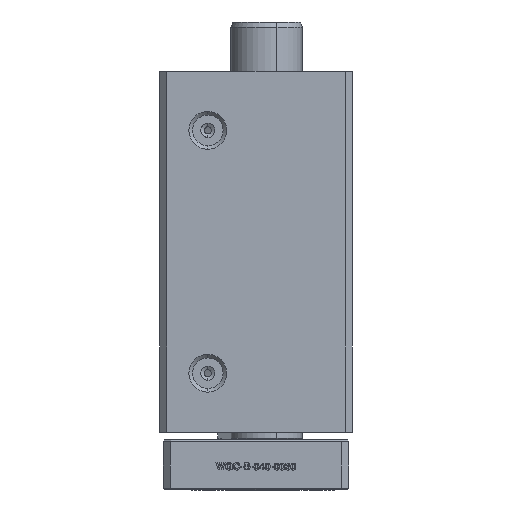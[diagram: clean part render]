
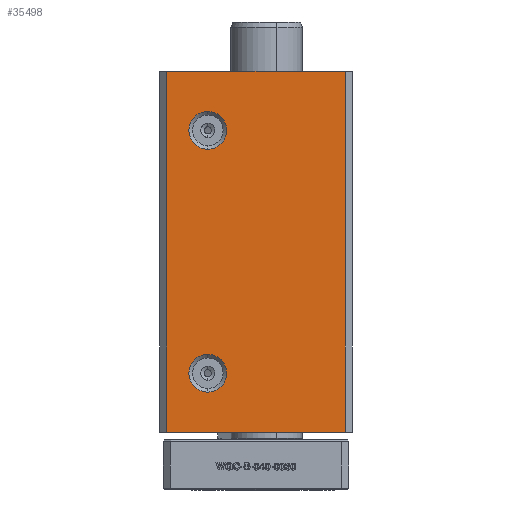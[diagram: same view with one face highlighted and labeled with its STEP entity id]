
A CAD part, left-side view. The second image highlights one B-rep face of the part: STEP entity #35498.
In plain terms, the highlighted planar face has unit normal (-1, 0, 0).
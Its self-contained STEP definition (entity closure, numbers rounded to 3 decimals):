
#427 = DIRECTION ( 'NONE',  ( 0., 0., 1. ) ) ;
#558 = CARTESIAN_POINT ( 'NONE',  ( -62., 13.5, 79.217 ) ) ;
#839 = EDGE_LOOP ( 'NONE', ( #7037, #26746 ) ) ;
#1072 = CARTESIAN_POINT ( 'NONE',  ( -62., 13.5, 21.783 ) ) ;
#1328 = LINE ( 'NONE', #9813, #31858 ) ;
#1901 = ORIENTED_EDGE ( 'NONE', *, *, #14506, .F. ) ;
#1995 = CARTESIAN_POINT ( 'NONE',  ( -62., 13.5, 84.5 ) ) ;
#2614 = VERTEX_POINT ( 'NONE', #39866 ) ;
#3100 = ORIENTED_EDGE ( 'NONE', *, *, #25495, .F. ) ;
#3720 = AXIS2_PLACEMENT_3D ( 'NONE', #14990, #14570, #21586 ) ;
#6815 = EDGE_CURVE ( 'NONE', #35653, #11105, #13027, .T. ) ;
#7037 = ORIENTED_EDGE ( 'NONE', *, *, #25001, .F. ) ;
#8221 = EDGE_CURVE ( 'NONE', #11105, #2614, #22581, .T. ) ;
#9012 = AXIS2_PLACEMENT_3D ( 'NONE', #38731, #28837, #31960 ) ;
#9058 = VERTEX_POINT ( 'NONE', #19096 ) ;
#9387 = ORIENTED_EDGE ( 'NONE', *, *, #6815, .F. ) ;
#9813 = CARTESIAN_POINT ( 'NONE',  ( -62., 27., 101. ) ) ;
#9972 = CARTESIAN_POINT ( 'NONE',  ( -62., -25., 101. ) ) ;
#10808 = DIRECTION ( 'NONE',  ( 0., 1., 0. ) ) ;
#10965 = FACE_OUTER_BOUND ( 'NONE', #23579, .T. ) ;
#11105 = VERTEX_POINT ( 'NONE', #26274 ) ;
#11497 = CIRCLE ( 'NONE', #3720, 5.283 ) ;
#13027 = LINE ( 'NONE', #23649, #17273 ) ;
#14002 = VERTEX_POINT ( 'NONE', #558 ) ;
#14506 = EDGE_CURVE ( 'NONE', #19139, #14002, #38013, .T. ) ;
#14562 = VECTOR ( 'NONE', #10808, 1000. ) ;
#14570 = DIRECTION ( 'NONE',  ( -1., 0., 0. ) ) ;
#14990 = CARTESIAN_POINT ( 'NONE',  ( -62., 13.5, 16.5 ) ) ;
#15215 = EDGE_CURVE ( 'NONE', #9058, #36435, #36924, .T. ) ;
#15330 = DIRECTION ( 'NONE',  ( 0., 0., 1. ) ) ;
#15616 = CARTESIAN_POINT ( 'NONE',  ( -62., 27., 101. ) ) ;
#16280 = FACE_BOUND ( 'NONE', #839, .T. ) ;
#16368 = DIRECTION ( 'NONE',  ( 1., 0., 0. ) ) ;
#16777 = VECTOR ( 'NONE', #427, 1000. ) ;
#17273 = VECTOR ( 'NONE', #33950, 1000. ) ;
#18597 = ORIENTED_EDGE ( 'NONE', *, *, #8221, .F. ) ;
#19096 = CARTESIAN_POINT ( 'NONE',  ( -62., 13.5, 11.217 ) ) ;
#19139 = VERTEX_POINT ( 'NONE', #19855 ) ;
#19855 = CARTESIAN_POINT ( 'NONE',  ( -62., 13.5, 89.783 ) ) ;
#20028 = LINE ( 'NONE', #34719, #16777 ) ;
#21210 = EDGE_LOOP ( 'NONE', ( #1901, #24669 ) ) ;
#21296 = CIRCLE ( 'NONE', #9012, 5.283 ) ;
#21586 = DIRECTION ( 'NONE',  ( 0., 0., 1. ) ) ;
#22067 = DIRECTION ( 'NONE',  ( -1., 0., 0. ) ) ;
#22581 = LINE ( 'NONE', #24704, #14562 ) ;
#23555 = DIRECTION ( 'NONE',  ( 0., -1., 0. ) ) ;
#23579 = EDGE_LOOP ( 'NONE', ( #9387, #43349, #3100, #18597 ) ) ;
#23649 = CARTESIAN_POINT ( 'NONE',  ( -62., -25., 101. ) ) ;
#24336 = FACE_BOUND ( 'NONE', #21210, .T. ) ;
#24669 = ORIENTED_EDGE ( 'NONE', *, *, #38563, .F. ) ;
#24704 = CARTESIAN_POINT ( 'NONE',  ( -62., 27., 0. ) ) ;
#24742 = EDGE_CURVE ( 'NONE', #34375, #35653, #1328, .T. ) ;
#25001 = EDGE_CURVE ( 'NONE', #36435, #9058, #11497, .T. ) ;
#25495 = EDGE_CURVE ( 'NONE', #2614, #34375, #20028, .T. ) ;
#25833 = DIRECTION ( 'NONE',  ( 0., 1., 0. ) ) ;
#26274 = CARTESIAN_POINT ( 'NONE',  ( -62., -25., 0. ) ) ;
#26746 = ORIENTED_EDGE ( 'NONE', *, *, #15215, .F. ) ;
#28670 = AXIS2_PLACEMENT_3D ( 'NONE', #37538, #37821, #33902 ) ;
#28837 = DIRECTION ( 'NONE',  ( -1., 0., 0. ) ) ;
#29119 = PLANE ( 'NONE',  #36492 ) ;
#31858 = VECTOR ( 'NONE', #23555, 1000. ) ;
#31960 = DIRECTION ( 'NONE',  ( 0., 0., 1. ) ) ;
#32204 = CARTESIAN_POINT ( 'NONE',  ( -62., 25., 101. ) ) ;
#33902 = DIRECTION ( 'NONE',  ( 0., 0., 1. ) ) ;
#33950 = DIRECTION ( 'NONE',  ( 0., 0., -1. ) ) ;
#34358 = AXIS2_PLACEMENT_3D ( 'NONE', #1995, #22067, #15330 ) ;
#34375 = VERTEX_POINT ( 'NONE', #32204 ) ;
#34719 = CARTESIAN_POINT ( 'NONE',  ( -62., 25., 101. ) ) ;
#35498 = ADVANCED_FACE ( 'NONE', ( #24336, #16280, #10965 ), #29119, .F. ) ;
#35653 = VERTEX_POINT ( 'NONE', #9972 ) ;
#36435 = VERTEX_POINT ( 'NONE', #1072 ) ;
#36492 = AXIS2_PLACEMENT_3D ( 'NONE', #15616, #16368, #25833 ) ;
#36924 = CIRCLE ( 'NONE', #28670, 5.283 ) ;
#37538 = CARTESIAN_POINT ( 'NONE',  ( -62., 13.5, 16.5 ) ) ;
#37821 = DIRECTION ( 'NONE',  ( -1., 0., 0. ) ) ;
#38013 = CIRCLE ( 'NONE', #34358, 5.283 ) ;
#38563 = EDGE_CURVE ( 'NONE', #14002, #19139, #21296, .T. ) ;
#38731 = CARTESIAN_POINT ( 'NONE',  ( -62., 13.5, 84.5 ) ) ;
#39866 = CARTESIAN_POINT ( 'NONE',  ( -62., 25., 0. ) ) ;
#43349 = ORIENTED_EDGE ( 'NONE', *, *, #24742, .F. ) ;
